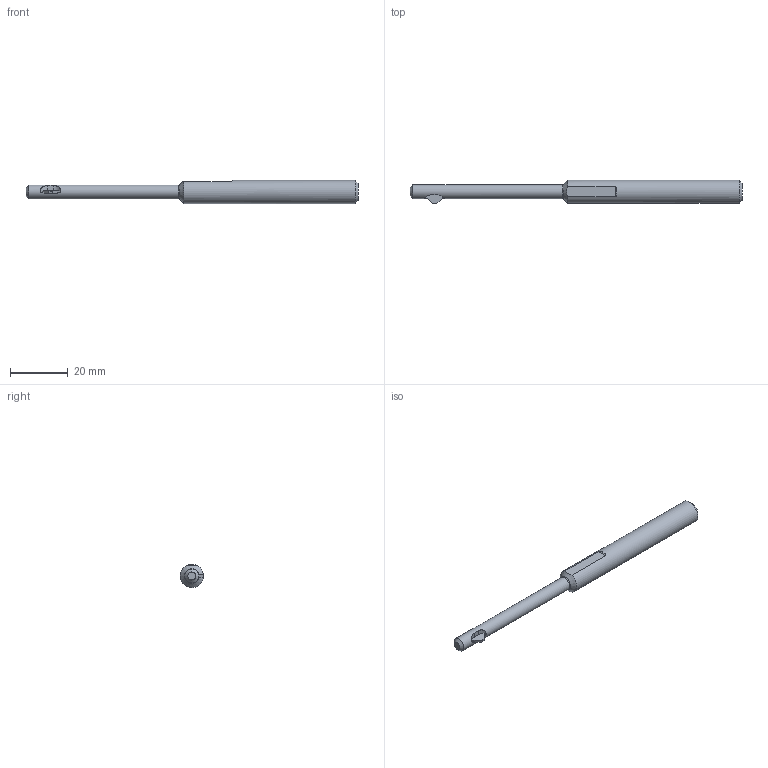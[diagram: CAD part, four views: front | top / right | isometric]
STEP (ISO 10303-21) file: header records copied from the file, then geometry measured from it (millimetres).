
FILE_DESCRIPTION(/* description */ (''),/* implementation_level */ '2;1');
FILE_NAME(/* name */ 'X:\EDF\EDF-OPEN\EDF-865\מודל מעודכן\U burr\קבצי STEP\Ass-Uburr Ø5mm_Simplify_1.stp',/* time_stamp */ '2023-03-02T11:46:36+02:00',/* author */ ('adva'),/* organization */ (''),/* preprocessor_version */ 'ST-DEVELOPER v18.1',/* originating_system */ 'Autodesk Inventor 2022',/* authorisation */ '');
FILE_SCHEMA (('CONFIG_CONTROL_DESIGN'));
Length unit declared in the file: millimetre
Products named in the file (1): Ass-Uburr Ø5mm_Simplify_1
Bounding box: 115 x 8.14 x 8 mm (x, y, z)
Volume: 4010.5 mm3; surface area: 2420.8 mm2
Topology: 1 solids, 1 shells, 23 faces, 58 edges, 38 vertices
Faces by surface type: plane 13, cylinder 6, cone 3, torus 1
Full cylindrical faces by diameter (mm): 4.8 x1, 8 x1
Entity records: 809 total; most frequent: CARTESIAN_POINT 170, DIRECTION 122, ORIENTED_EDGE 116, EDGE_CURVE 58, AXIS2_PLACEMENT_3D 45, VERTEX_POINT 38, LINE 32, VECTOR 32
